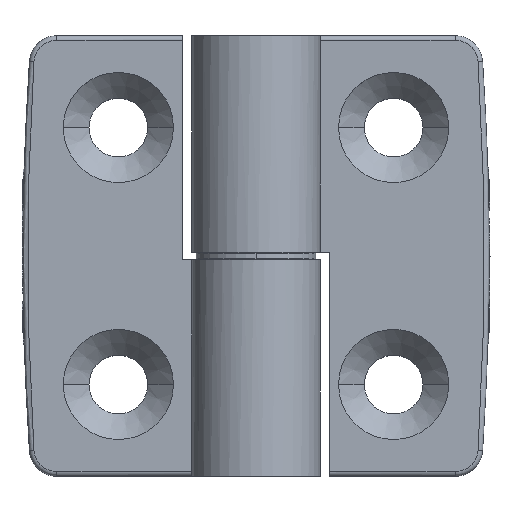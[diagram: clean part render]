
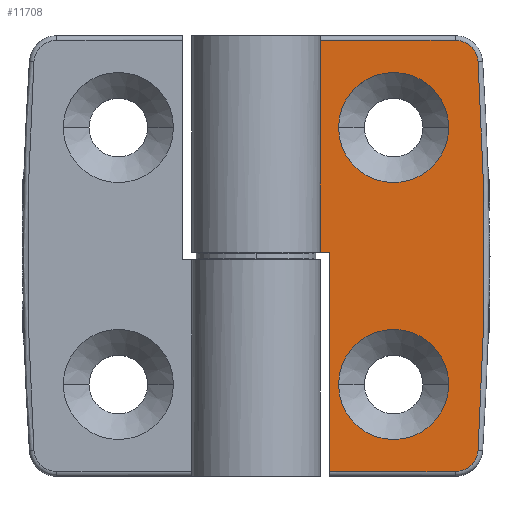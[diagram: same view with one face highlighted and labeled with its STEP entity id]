
A CAD part, top view. The second image highlights one B-rep face of the part: STEP entity #11708.
In plain terms, the highlighted planar face has unit normal (0, 0, 1).
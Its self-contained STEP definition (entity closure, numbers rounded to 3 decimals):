
#99 = DIRECTION ( 'NONE',  ( 1., 0., 0. ) ) ;
#247 = AXIS2_PLACEMENT_3D ( 'NONE', #7046, #10736, #4299 ) ;
#364 = EDGE_CURVE ( 'NONE', #6032, #948, #434, .T. ) ;
#434 = CIRCLE ( 'NONE', #10313, 2.5 ) ;
#470 = ORIENTED_EDGE ( 'NONE', *, *, #2848, .F. ) ;
#474 = AXIS2_PLACEMENT_3D ( 'NONE', #1511, #3513, #10842 ) ;
#560 = EDGE_CURVE ( 'NONE', #2455, #9214, #1208, .T. ) ;
#562 = VERTEX_POINT ( 'NONE', #8018 ) ;
#623 = DIRECTION ( 'NONE',  ( -1., 0., 0. ) ) ;
#774 = DIRECTION ( 'NONE',  ( 1., 0., 0. ) ) ;
#948 = VERTEX_POINT ( 'NONE', #1844 ) ;
#1208 = CIRCLE ( 'NONE', #247, 6. ) ;
#1511 = CARTESIAN_POINT ( 'NONE',  ( 15., 14., 0. ) ) ;
#1628 = FACE_BOUND ( 'NONE', #5480, .T. ) ;
#1682 = DIRECTION ( 'NONE',  ( 0., 0., -1. ) ) ;
#1721 = EDGE_CURVE ( 'NONE', #11082, #2644, #2085, .T. ) ;
#1737 = DIRECTION ( 'NONE',  ( -1., 0., 0. ) ) ;
#1819 = VERTEX_POINT ( 'NONE', #8212 ) ;
#1844 = CARTESIAN_POINT ( 'NONE',  ( 21.705, 23.5, 0. ) ) ;
#1896 = CARTESIAN_POINT ( 'NONE',  ( 7., 23.5, 0. ) ) ;
#2085 = LINE ( 'NONE', #11490, #5265 ) ;
#2219 = ORIENTED_EDGE ( 'NONE', *, *, #560, .F. ) ;
#2338 = ORIENTED_EDGE ( 'NONE', *, *, #6591, .T. ) ;
#2385 = CIRCLE ( 'NONE', #5670, 2.5 ) ;
#2455 = VERTEX_POINT ( 'NONE', #10050 ) ;
#2644 = VERTEX_POINT ( 'NONE', #7883 ) ;
#2668 = CARTESIAN_POINT ( 'NONE',  ( 24.199, -21.165, 0. ) ) ;
#2728 = EDGE_CURVE ( 'NONE', #6329, #6032, #2998, .T. ) ;
#2813 = LINE ( 'NONE', #1896, #10685 ) ;
#2817 = LINE ( 'NONE', #6449, #8742 ) ;
#2836 = CARTESIAN_POINT ( 'NONE',  ( 7., 0.4, 0. ) ) ;
#2848 = EDGE_CURVE ( 'NONE', #9214, #2455, #8797, .T. ) ;
#2863 = CARTESIAN_POINT ( 'NONE',  ( 21.705, 21., 0. ) ) ;
#2998 = CIRCLE ( 'NONE', #11908, 319.95 ) ;
#3104 = EDGE_CURVE ( 'NONE', #562, #6329, #2385, .T. ) ;
#3494 = DIRECTION ( 'NONE',  ( 0., -1., 0. ) ) ;
#3513 = DIRECTION ( 'NONE',  ( 0., 0., 1. ) ) ;
#3726 = ORIENTED_EDGE ( 'NONE', *, *, #10925, .T. ) ;
#3795 = ORIENTED_EDGE ( 'NONE', *, *, #2728, .T. ) ;
#3889 = CARTESIAN_POINT ( 'NONE',  ( 21., -14., 0. ) ) ;
#4034 = VERTEX_POINT ( 'NONE', #3889 ) ;
#4058 = EDGE_CURVE ( 'NONE', #948, #1819, #2813, .T. ) ;
#4137 = DIRECTION ( 'NONE',  ( 0., 0., 1. ) ) ;
#4152 = CARTESIAN_POINT ( 'NONE',  ( 8., 0.4, 0. ) ) ;
#4299 = DIRECTION ( 'NONE',  ( 1., 0., 0. ) ) ;
#4414 = FACE_OUTER_BOUND ( 'NONE', #9783, .T. ) ;
#4537 = LINE ( 'NONE', #5380, #6641 ) ;
#4565 = CARTESIAN_POINT ( 'NONE',  ( 24.199, 21.165, 0. ) ) ;
#4700 = EDGE_CURVE ( 'NONE', #4034, #6586, #7599, .T. ) ;
#4826 = EDGE_CURVE ( 'NONE', #1819, #10950, #2817, .T. ) ;
#4952 = AXIS2_PLACEMENT_3D ( 'NONE', #5046, #4137, #9664 ) ;
#5046 = CARTESIAN_POINT ( 'NONE',  ( 15., -14., 0. ) ) ;
#5265 = VECTOR ( 'NONE', #10641, 1000. ) ;
#5380 = CARTESIAN_POINT ( 'NONE',  ( 7., -23.5, 0. ) ) ;
#5460 = DIRECTION ( 'NONE',  ( 0., 0., 1. ) ) ;
#5480 = EDGE_LOOP ( 'NONE', ( #8618, #11768 ) ) ;
#5670 = AXIS2_PLACEMENT_3D ( 'NONE', #10570, #5962, #623 ) ;
#5793 = LINE ( 'NONE', #6585, #11530 ) ;
#5800 = ORIENTED_EDGE ( 'NONE', *, *, #4826, .T. ) ;
#5962 = DIRECTION ( 'NONE',  ( 0., 0., 1. ) ) ;
#6032 = VERTEX_POINT ( 'NONE', #4565 ) ;
#6329 = VERTEX_POINT ( 'NONE', #2668 ) ;
#6410 = FACE_BOUND ( 'NONE', #6911, .T. ) ;
#6426 = AXIS2_PLACEMENT_3D ( 'NONE', #10826, #7009, #9738 ) ;
#6449 = CARTESIAN_POINT ( 'NONE',  ( 7., 24., 0. ) ) ;
#6494 = ORIENTED_EDGE ( 'NONE', *, *, #364, .T. ) ;
#6585 = CARTESIAN_POINT ( 'NONE',  ( 7., 0.4, 0. ) ) ;
#6586 = VERTEX_POINT ( 'NONE', #10904 ) ;
#6591 = EDGE_CURVE ( 'NONE', #2644, #562, #4537, .T. ) ;
#6641 = VECTOR ( 'NONE', #774, 1000. ) ;
#6911 = EDGE_LOOP ( 'NONE', ( #470, #2219 ) ) ;
#7009 = DIRECTION ( 'NONE',  ( 0., 0., 1. ) ) ;
#7046 = CARTESIAN_POINT ( 'NONE',  ( 15., 14., 0. ) ) ;
#7599 = CIRCLE ( 'NONE', #6426, 6. ) ;
#7605 = DIRECTION ( 'NONE',  ( -1., 0., 0. ) ) ;
#7698 = CARTESIAN_POINT ( 'NONE',  ( -295.05, 0., 0. ) ) ;
#7883 = CARTESIAN_POINT ( 'NONE',  ( 8., -23.5, 0. ) ) ;
#7932 = EDGE_CURVE ( 'NONE', #6586, #4034, #9993, .T. ) ;
#8018 = CARTESIAN_POINT ( 'NONE',  ( 21.705, -23.5, 0. ) ) ;
#8212 = CARTESIAN_POINT ( 'NONE',  ( 7., 23.5, 0. ) ) ;
#8252 = AXIS2_PLACEMENT_3D ( 'NONE', #9939, #1682, #1737 ) ;
#8520 = ORIENTED_EDGE ( 'NONE', *, *, #1721, .T. ) ;
#8618 = ORIENTED_EDGE ( 'NONE', *, *, #4700, .F. ) ;
#8742 = VECTOR ( 'NONE', #3494, 1000. ) ;
#8797 = CIRCLE ( 'NONE', #474, 6. ) ;
#9171 = DIRECTION ( 'NONE',  ( -1., 0., 0. ) ) ;
#9214 = VERTEX_POINT ( 'NONE', #9343 ) ;
#9343 = CARTESIAN_POINT ( 'NONE',  ( 21., 14., 0. ) ) ;
#9664 = DIRECTION ( 'NONE',  ( -1., 0., 0. ) ) ;
#9694 = DIRECTION ( 'NONE',  ( -1., 0., 0. ) ) ;
#9738 = DIRECTION ( 'NONE',  ( -1., 0., 0. ) ) ;
#9783 = EDGE_LOOP ( 'NONE', ( #6494, #10096, #5800, #3726, #8520, #2338, #9879, #3795 ) ) ;
#9879 = ORIENTED_EDGE ( 'NONE', *, *, #3104, .T. ) ;
#9939 = CARTESIAN_POINT ( 'NONE',  ( 7., 24., 0. ) ) ;
#9993 = CIRCLE ( 'NONE', #4952, 6. ) ;
#10050 = CARTESIAN_POINT ( 'NONE',  ( 9., 14., 0. ) ) ;
#10056 = PLANE ( 'NONE',  #8252 ) ;
#10096 = ORIENTED_EDGE ( 'NONE', *, *, #4058, .T. ) ;
#10313 = AXIS2_PLACEMENT_3D ( 'NONE', #2863, #5460, #9171 ) ;
#10482 = DIRECTION ( 'NONE',  ( 0., 0., 1. ) ) ;
#10570 = CARTESIAN_POINT ( 'NONE',  ( 21.705, -21., 0. ) ) ;
#10641 = DIRECTION ( 'NONE',  ( 0., -1., 0. ) ) ;
#10685 = VECTOR ( 'NONE', #7605, 1000. ) ;
#10736 = DIRECTION ( 'NONE',  ( 0., 0., 1. ) ) ;
#10826 = CARTESIAN_POINT ( 'NONE',  ( 15., -14., 0. ) ) ;
#10842 = DIRECTION ( 'NONE',  ( 1., 0., 0. ) ) ;
#10904 = CARTESIAN_POINT ( 'NONE',  ( 9., -14., 0. ) ) ;
#10925 = EDGE_CURVE ( 'NONE', #10950, #11082, #5793, .T. ) ;
#10950 = VERTEX_POINT ( 'NONE', #2836 ) ;
#11082 = VERTEX_POINT ( 'NONE', #4152 ) ;
#11490 = CARTESIAN_POINT ( 'NONE',  ( 8., 0.4, 0. ) ) ;
#11530 = VECTOR ( 'NONE', #99, 1000. ) ;
#11708 = ADVANCED_FACE ( 'NONE', ( #1628, #6410, #4414 ), #10056, .F. ) ;
#11768 = ORIENTED_EDGE ( 'NONE', *, *, #7932, .F. ) ;
#11908 = AXIS2_PLACEMENT_3D ( 'NONE', #7698, #10482, #9694 ) ;
